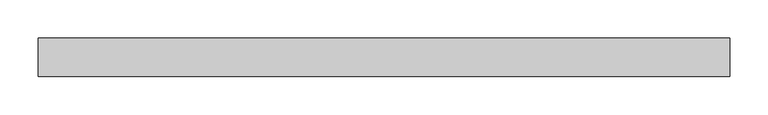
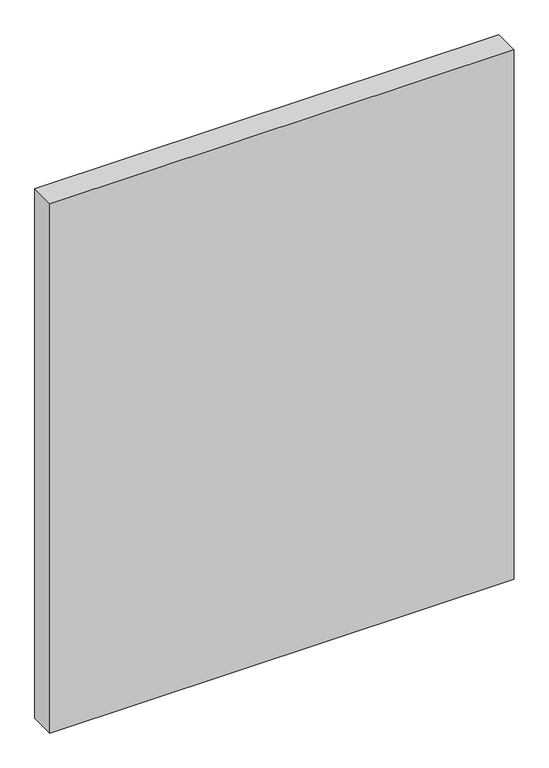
"""IFC4 building model written with IfcOpenShell, lengths in millimetres: plate geometry, Системная панель : Стекло(50мм)."""

from ifc_helpers import new_model, si_unit, origin, origin_with_axes, place, context, project, spatial, polyline, outline, extrude, source, transform, mapped, element, save


def plate_eb32b48a(model_context):
    return source(origin(), model_context, "Body", "SweptSolid", [
        extrude(outline(polyline([(450.0, -25.0), (-450.0, -25.0), (-450.0, 25.0), (450.0, 25.0), (450.0, -25.0)])), origin_with_axes(), (0.0, 0.0, 1.0), 1085.0),
    ])


if __name__ == "__main__":
    model = new_model("IFC4")
    model_context = context("Model", 3, world=origin())
    ifc_project = project(units=[si_unit("LENGTHUNIT", "METRE", prefix="MILLI")], contexts=[model_context])
    site = spatial("IfcSite", under=ifc_project)
    building = spatial("IfcBuilding", under=site)
    placement = place(None, origin())
    plate_shape = plate_eb32b48a(model_context)
    element("IfcPlate", 1, ObjectType="Системная панель : Стекло(50мм)", at=placement, inside=building, context=model_context, shape_type="MappedRepresentation", body=[
        mapped(plate_shape, transform((0.0, 0.0, 0.0), x_axis=(1.0, 0.0, 0.0), y_axis=(0.0, 1.0, 0.0), z_axis=(0.0, 0.0, 1.0))),
    ])
    save(model, "model.ifc")
